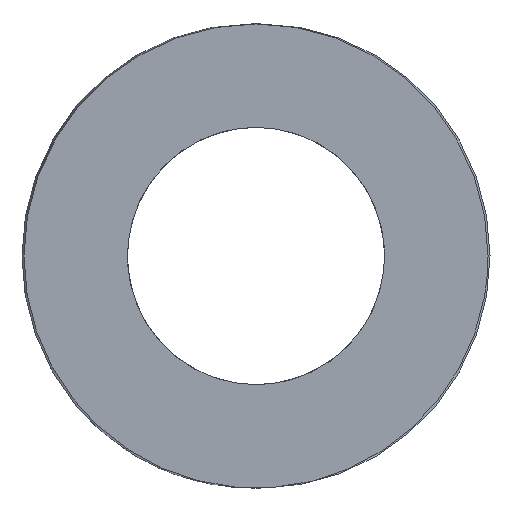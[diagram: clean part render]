
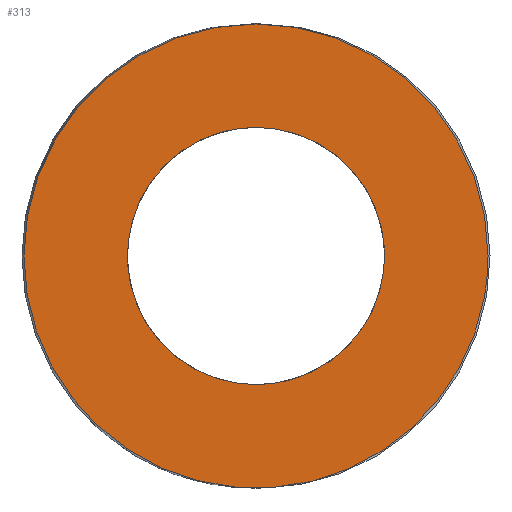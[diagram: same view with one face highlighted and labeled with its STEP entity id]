
A CAD part, left-side view. The second image highlights one B-rep face of the part: STEP entity #313.
In plain terms, the highlighted planar face has unit normal (-1, 0, 0).
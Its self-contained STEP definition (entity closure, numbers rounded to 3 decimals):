
#63=CARTESIAN_POINT('Vertex',(0.,9.2,0.)) ;
#89=CARTESIAN_POINT('Vertex',(0.,-9.2,0.)) ;
#93=CARTESIAN_POINT('Control Point',(0.,9.2,0.)) ;
#94=CARTESIAN_POINT('Control Point',(0.,9.2,-1.445)) ;
#95=CARTESIAN_POINT('Control Point',(0.,8.916,-2.89)) ;
#96=CARTESIAN_POINT('Control Point',(0.,8.348,-4.261)) ;
#97=CARTESIAN_POINT('Control Point',(0.,6.706,-6.706)) ;
#98=CARTESIAN_POINT('Control Point',(0.,4.261,-8.348)) ;
#99=CARTESIAN_POINT('Control Point',(0.,2.89,-8.916)) ;
#100=CARTESIAN_POINT('Control Point',(0.,0.,-9.484)) ;
#101=CARTESIAN_POINT('Control Point',(0.,-2.89,-8.916)) ;
#102=CARTESIAN_POINT('Control Point',(0.,-4.261,-8.348)) ;
#103=CARTESIAN_POINT('Control Point',(0.,-6.706,-6.706)) ;
#104=CARTESIAN_POINT('Control Point',(0.,-8.348,-4.261)) ;
#105=CARTESIAN_POINT('Control Point',(0.,-8.916,-2.89)) ;
#106=CARTESIAN_POINT('Control Point',(0.,-9.2,-1.445)) ;
#107=CARTESIAN_POINT('Control Point',(0.,-9.2,0.)) ;
#121=CARTESIAN_POINT('Axis2P3D Location',(0.,0.,0.)) ;
#250=CARTESIAN_POINT('Axis2P3D Location',(0.,4.6,0.)) ;
#260=CARTESIAN_POINT('Control Point',(0.,0.,-5.1)) ;
#261=CARTESIAN_POINT('Control Point',(0.,0.553,-5.1)) ;
#262=CARTESIAN_POINT('Control Point',(0.,1.106,-5.025)) ;
#263=CARTESIAN_POINT('Control Point',(0.,1.646,-4.875)) ;
#264=CARTESIAN_POINT('Control Point',(0.,2.671,-4.432)) ;
#265=CARTESIAN_POINT('Control Point',(0.,3.541,-3.733)) ;
#266=CARTESIAN_POINT('Control Point',(0.,3.926,-3.326)) ;
#267=CARTESIAN_POINT('Control Point',(0.,4.575,-2.418)) ;
#268=CARTESIAN_POINT('Control Point',(0.,4.96,-1.37)) ;
#269=CARTESIAN_POINT('Control Point',(0.,5.079,-0.822)) ;
#270=CARTESIAN_POINT('Control Point',(0.,5.167,0.291)) ;
#271=CARTESIAN_POINT('Control Point',(0.,4.955,1.387)) ;
#272=CARTESIAN_POINT('Control Point',(0.,4.775,1.917)) ;
#273=CARTESIAN_POINT('Control Point',(0.,4.275,2.916)) ;
#274=CARTESIAN_POINT('Control Point',(0.,3.528,3.745)) ;
#275=CARTESIAN_POINT('Control Point',(0.,3.1,4.106)) ;
#276=CARTESIAN_POINT('Control Point',(0.,2.255,4.642)) ;
#277=CARTESIAN_POINT('Control Point',(0.,1.309,4.959)) ;
#278=CARTESIAN_POINT('Control Point',(0.,0.877,5.053)) ;
#279=CARTESIAN_POINT('Control Point',(0.,0.439,5.1)) ;
#280=CARTESIAN_POINT('Control Point',(0.,0.,5.1)) ;
#281=CARTESIAN_POINT('Vertex',(0.,0.,-5.1)) ;
#283=CARTESIAN_POINT('Vertex',(0.,0.,5.1)) ;
#287=CARTESIAN_POINT('Control Point',(0.,0.,5.1)) ;
#288=CARTESIAN_POINT('Control Point',(0.,-0.553,5.1)) ;
#289=CARTESIAN_POINT('Control Point',(0.,-1.106,5.025)) ;
#290=CARTESIAN_POINT('Control Point',(0.,-1.646,4.875)) ;
#291=CARTESIAN_POINT('Control Point',(0.,-2.671,4.432)) ;
#292=CARTESIAN_POINT('Control Point',(0.,-3.541,3.733)) ;
#293=CARTESIAN_POINT('Control Point',(0.,-3.926,3.326)) ;
#294=CARTESIAN_POINT('Control Point',(0.,-4.575,2.418)) ;
#295=CARTESIAN_POINT('Control Point',(0.,-4.96,1.37)) ;
#296=CARTESIAN_POINT('Control Point',(0.,-5.079,0.822)) ;
#297=CARTESIAN_POINT('Control Point',(0.,-5.167,-0.291)) ;
#298=CARTESIAN_POINT('Control Point',(0.,-4.955,-1.387)) ;
#299=CARTESIAN_POINT('Control Point',(0.,-4.775,-1.917)) ;
#300=CARTESIAN_POINT('Control Point',(0.,-4.275,-2.916)) ;
#301=CARTESIAN_POINT('Control Point',(0.,-3.528,-3.745)) ;
#302=CARTESIAN_POINT('Control Point',(0.,-3.1,-4.106)) ;
#303=CARTESIAN_POINT('Control Point',(0.,-2.255,-4.642)) ;
#304=CARTESIAN_POINT('Control Point',(0.,-1.309,-4.959)) ;
#305=CARTESIAN_POINT('Control Point',(0.,-0.877,-5.053)) ;
#306=CARTESIAN_POINT('Control Point',(0.,-0.439,-5.1)) ;
#307=CARTESIAN_POINT('Control Point',(0.,0.,-5.1)) ;
#122=DIRECTION('Axis2P3D Direction',(1.,-0.,0.)) ;
#251=DIRECTION('Axis2P3D Direction',(-1.,0.,0.)) ;
#252=DIRECTION('Axis2P3D XDirection',(0.,1.,0.)) ;
#123=AXIS2_PLACEMENT_3D('Circle Axis2P3D',#121,#122,$) ;
#253=AXIS2_PLACEMENT_3D('Plane Axis2P3D',#250,#251,#252) ;
#256=ORIENTED_EDGE('',*,*,#108,.T.) ;
#257=ORIENTED_EDGE('',*,*,#125,.T.) ;
#310=ORIENTED_EDGE('',*,*,#285,.T.) ;
#311=ORIENTED_EDGE('',*,*,#308,.T.) ;
#312=FACE_BOUND('',#309,.T.) ;
#313=ADVANCED_FACE('392-B20-025',(#258,#312),#254,.T.) ;
#92=B_SPLINE_CURVE_WITH_KNOTS('',5,(#93,#94,#95,#96,#97,#98,#99,#100,#101,#102,#103,#104,#105,#106,#107),.UNSPECIFIED.,.F.,.U.,(6,3,3,3,6),(-14.451,-7.226,0.,7.226,14.451),.UNSPECIFIED.) ;
#259=B_SPLINE_CURVE_WITH_KNOTS('',5,(#260,#261,#262,#263,#264,#265,#266,#267,#268,#269,#270,#271,#272,#273,#274,#275,#276,#277,#278,#279,#280),.UNSPECIFIED.,.F.,.U.,(6,3,3,3,3,3,6),(0.,3.911,7.823,11.734,15.646,19.557,22.658),.UNSPECIFIED.) ;
#286=B_SPLINE_CURVE_WITH_KNOTS('',5,(#287,#288,#289,#290,#291,#292,#293,#294,#295,#296,#297,#298,#299,#300,#301,#302,#303,#304,#305,#306,#307),.UNSPECIFIED.,.F.,.U.,(6,3,3,3,3,3,6),(0.,3.911,7.823,11.734,15.646,19.557,22.658),.UNSPECIFIED.) ;
#124=CIRCLE('generated circle',#123,9.2) ;
#108=EDGE_CURVE('',#64,#90,#92,.T.) ;
#125=EDGE_CURVE('',#90,#64,#124,.F.) ;
#285=EDGE_CURVE('',#282,#284,#259,.T.) ;
#308=EDGE_CURVE('',#284,#282,#286,.T.) ;
#255=EDGE_LOOP('',(#256,#257)) ;
#309=EDGE_LOOP('',(#310,#311)) ;
#258=FACE_OUTER_BOUND('',#255,.T.) ;
#254=PLANE('Plane',#253) ;
#64=VERTEX_POINT('',#63) ;
#90=VERTEX_POINT('',#89) ;
#282=VERTEX_POINT('',#281) ;
#284=VERTEX_POINT('',#283) ;
